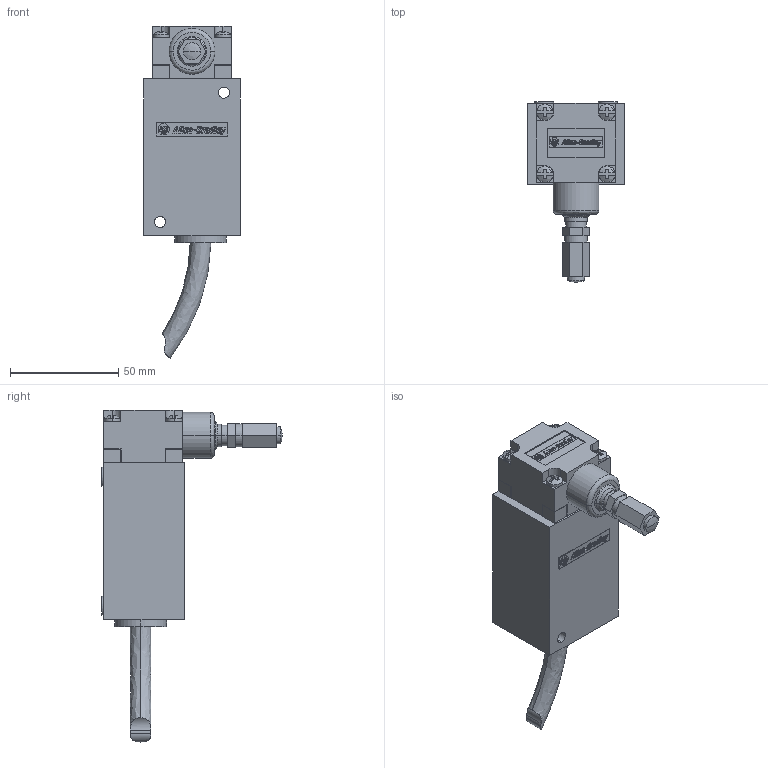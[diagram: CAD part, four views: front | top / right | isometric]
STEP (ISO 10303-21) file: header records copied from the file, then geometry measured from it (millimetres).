
FILE_DESCRIPTION (( 'STEP AP214' ), '1' );
FILE_NAME ('802M-CAFTY5.STEP', '2009-07-25T02:18:44', ( 'me' ), ( '' ), 'SwSTEP 2.0', 'SolidWorks 2007', '' );
FILE_SCHEMA (( 'AUTOMOTIVE_DESIGN' ));
Length unit declared in the file: millimetre
Products named in the file (3): 802M-CAFX; 802M-XTY5; 802M-CAFTY5
Assembly tree (2 placements, depth 2):
  802M-CAFTY5
    802M-CAFX
    802M-XTY5
Bounding box: 44.45 x 83.12 x 153.02 mm (x, y, z)
Volume: 157545.1 mm3; surface area: 32071.1 mm2
Topology: 43 solids, 44 shells, 1300 faces, 3517 edges, 2332 vertices
Faces by surface type: plane 1181, cylinder 95, bspline 22, cone 2
Entity records: 55542 total; most frequent: CARTESIAN_POINT 7869, ORIENTED_EDGE 7018, DIRECTION 6246, EDGE_CURVE 3509, LINE 3228, VECTOR 3228, VERTEX_POINT 2332, AXIS2_PLACEMENT_3D 1509
